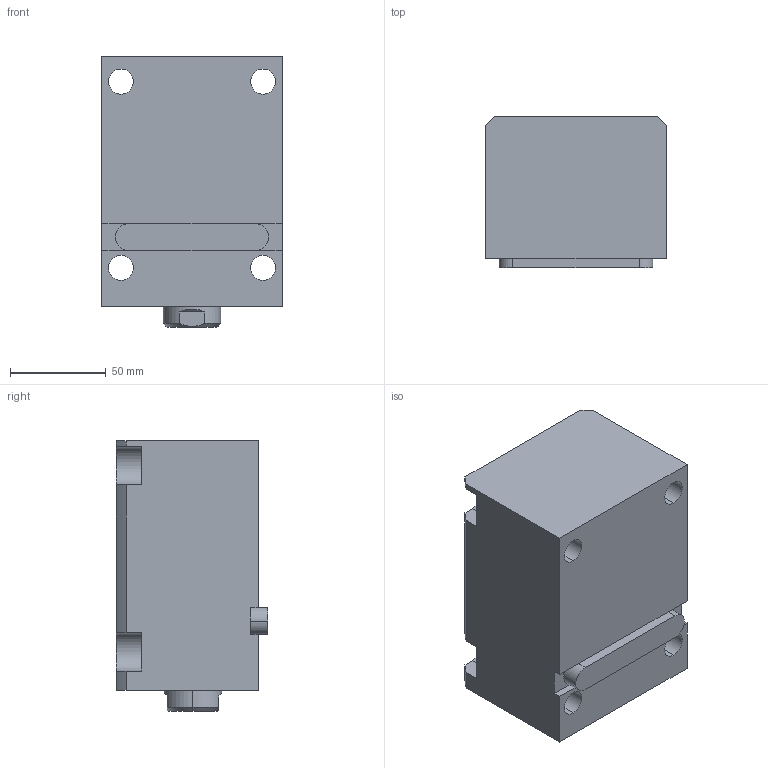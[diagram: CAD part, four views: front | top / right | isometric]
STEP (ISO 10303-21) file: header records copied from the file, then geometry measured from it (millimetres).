
FILE_DESCRIPTION (( 'STEP AP203' ), '1' );
FILE_NAME ('CHTB-LA50-70N.STEP', '2018-05-18T01:44:24', ( '' ), ( '' ), 'SwSTEP 2.0', 'SolidWorks 2015', '' );
FILE_SCHEMA (( 'CONFIG_CONTROL_DESIGN' ));
Length unit declared in the file: millimetre
Products named in the file (4): 活塞杆LA50-70N; CHTB-LA50-70N; 掛极LA50-70N; CHTM-SDMA50QG
Assembly tree (3 placements, depth 2):
  CHTB-LA50-70N
    掛极LA50-70N
    活塞杆LA50-70N
    CHTM-SDMA50QG
Bounding box: 94 x 79 x 141 mm (x, y, z)
Volume: 759900.7 mm3; surface area: 124335.4 mm2
Topology: 3 solids, 3 shells, 202 faces, 542 edges, 358 vertices
Faces by surface type: cylinder 96, plane 53, cone 23, torus 16, bspline 14
Entity records: 11255 total; most frequent: CARTESIAN_POINT 5992, ORIENTED_EDGE 1072, DIRECTION 958, EDGE_CURVE 536, AXIS2_PLACEMENT_3D 377, VERTEX_POINT 358, EDGE_LOOP 234, LINE 204
